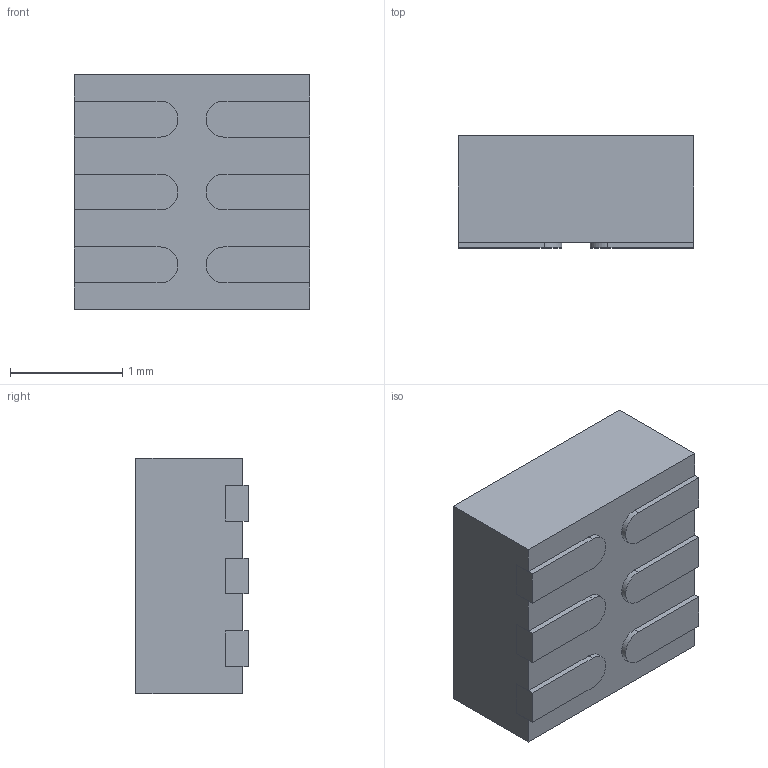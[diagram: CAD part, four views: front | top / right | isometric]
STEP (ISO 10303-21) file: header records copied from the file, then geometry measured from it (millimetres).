
FILE_DESCRIPTION(('FreeCAD Model'),'2;1');
FILE_NAME('Open CASCADE Shape Model','2025-08-30T13:17:03',(''),(''), 'Open CASCADE STEP processor 7.8','FreeCAD','Unknown');
FILE_SCHEMA(('AUTOMOTIVE_DESIGN { 1 0 10303 214 1 1 1 1 }'));
Length unit declared in the file: millimetre
Products named in the file (6): DFN_standard; Body_Solid1; Body002_Solid1; Array002_Solid1; Array003_Solid2; Body004_Solid1
Assembly tree (8 placements, depth 2):
  DFN_standard
    Body_Solid1
    Body002_Solid1
    Array002_Solid1  x3
    Array003_Solid2  x2
    Body004_Solid1
Bounding box: 2.1 x 1 x 2.1 mm (x, y, z)
Volume: 4.3 mm3; surface area: 25 mm2
Topology: 8 solids, 8 shells, 71 faces, 162 edges, 108 vertices
Faces by surface type: plane 57, cylinder 14
Full cylindrical faces by diameter (mm): 0.21 x2
Entity records: 1760 total; most frequent: CARTESIAN_POINT 272, DIRECTION 272, ORIENTED_EDGE 252, EDGE_CURVE 126, LINE 104, VECTOR 104, AXIS2_PLACEMENT_3D 84, VERTEX_POINT 84
